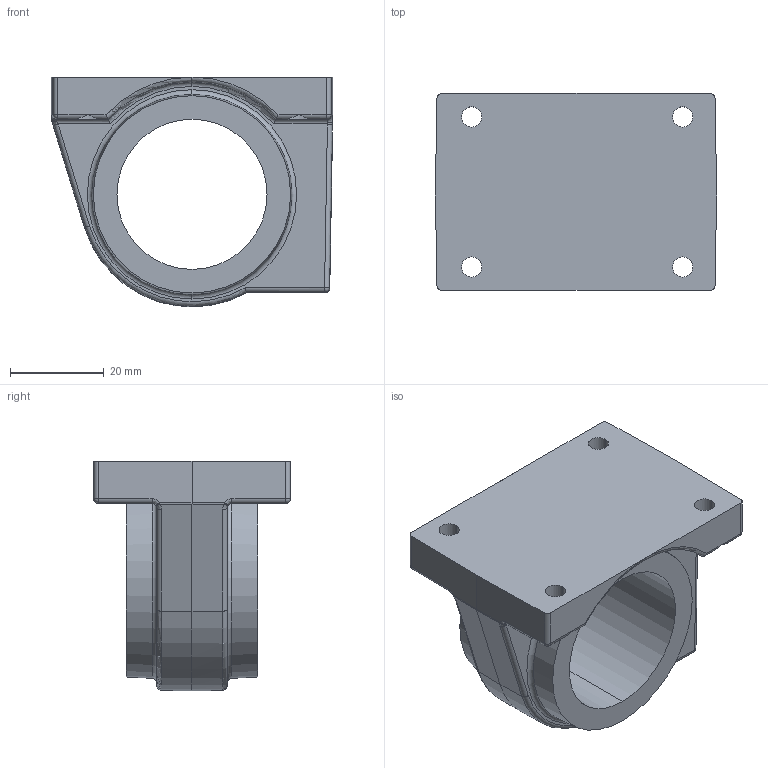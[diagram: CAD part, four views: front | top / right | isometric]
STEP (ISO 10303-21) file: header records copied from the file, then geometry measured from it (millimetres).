
FILE_DESCRIPTION (( 'STEP AP203' ), '1' );
FILE_NAME ('KGG65-20.step', '2020-03-10T15:22:09', ( '' ), ( '' ), 'SwSTEP 2.0', 'SolidWorks 2019', '' );
FILE_SCHEMA (( 'CONFIG_CONTROL_DESIGN' ));
Length unit declared in the file: millimetre
Products named in the file (2): KGG65-20
Bounding box: 59.98 x 42 x 49 mm (x, y, z)
Volume: 42363.3 mm3; surface area: 14794.2 mm2
Topology: 1 solids, 1 shells, 123 faces, 286 edges, 165 vertices
Faces by surface type: cylinder 55, plane 31, torus 14, bspline 8, sphere 8, cone 7
Entity records: 3859 total; most frequent: CARTESIAN_POINT 965, DIRECTION 595, ORIENTED_EDGE 568, EDGE_CURVE 284, AXIS2_PLACEMENT_3D 243, VERTEX_POINT 165, EDGE_LOOP 135, CIRCLE 126
